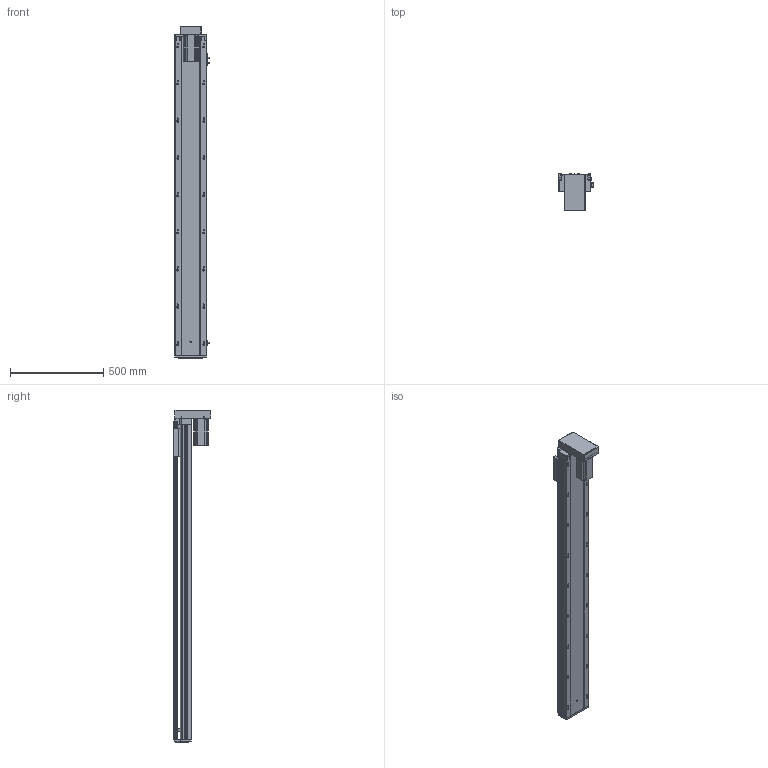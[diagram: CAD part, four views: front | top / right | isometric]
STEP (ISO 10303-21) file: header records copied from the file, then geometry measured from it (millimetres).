
FILE_DESCRIPTION (( 'STEP AP203' ), '1' );
FILE_NAME ('RY170-L2510-1400-BK.SLDASM_1450.step', '2021-03-12T09:25:35', ( '盈信电脑' ), ( '东莞市道滘镇水果街19号' ), 'SwSTEP 2.0', 'SolidWorks 2012', '' );
FILE_SCHEMA (( 'CONFIG_CONTROL_DESIGN' ));
Length unit declared in the file: millimetre
Products named in the file (14): RY170-L2510-1400-BK.SLDASM_1450; 滅袉蝶18-15; 怢湛750W萇儂ㄗ80遺ㄘ; RY170狟殏萇儂欶; RY170-狟殏萇儂假蚾啣; RY170-狟殏750W萇儂傷; RY170外置感应片(200共用）; RY170转折电机端支撑座(7004); 滅袉蝶18-20; RY170-1400倰第裔啣-BK_1450; RY170綴裔啣; 改造-RY170铝滑块25丝杆螺母; 覜茼ん672; RY170-1400倰第菁釱-BK_1450
Assembly tree (15 placements, depth 3):
  RY170-L2510-1400-BK.SLDASM_1450
    RY170-1400倰第菁釱-BK_1450
    改造-RY170铝滑块25丝杆螺母
    RY170-1400倰第裔啣-BK_1450
    RY170綴裔啣
    覜茼ん672  x3
    RY170外置感应片(200共用）
    滅袉蝶18-20
    RY170转折电机端支撑座(7004)
    RY170-狟殏750W萇儂傷
      RY170-狟殏萇儂假蚾啣
      RY170狟殏萇儂欶
      怢湛750W萇儂ㄗ80遺ㄘ
    滅袉蝶18-15
Bounding box: 183.7 x 200.8 x 1784.5 mm (x, y, z)
Volume: 9198960.8 mm3; surface area: 2944692.9 mm2
Topology: 14 solids, 14 shells, 2286 faces, 6577 edges, 4198 vertices
Faces by surface type: plane 1086, cylinder 963, cone 218, bspline 19
Entity records: 74338 total; most frequent: CARTESIAN_POINT 18117, ORIENTED_EDGE 11810, DIRECTION 10913, EDGE_CURVE 5905, VERTEX_POINT 3878, AXIS2_PLACEMENT_3D 3664, VECTOR 3585, LINE 3585
